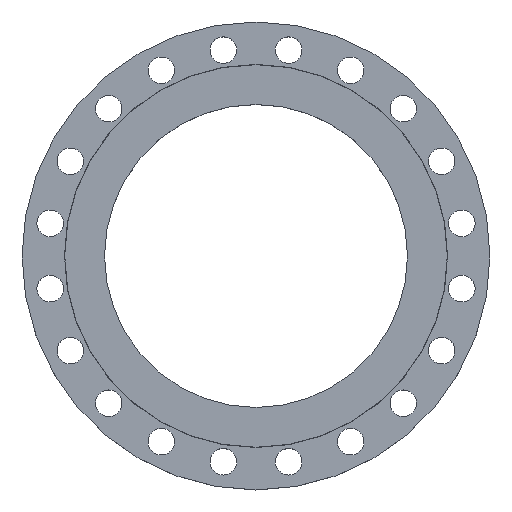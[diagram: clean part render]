
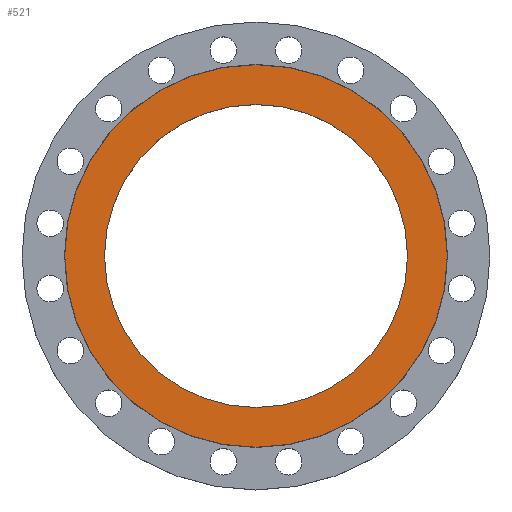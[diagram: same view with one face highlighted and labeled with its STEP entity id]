
A CAD part, top view. The second image highlights one B-rep face of the part: STEP entity #521.
In plain terms, the highlighted planar face has unit normal (0, 0, 1).
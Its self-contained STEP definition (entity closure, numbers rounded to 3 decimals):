
#7 = DIRECTION ( 'NONE',  ( -1., 0., 0. ) ) ;
#8 = DIRECTION ( 'NONE',  ( 0., 0., -1. ) ) ;
#9 = CARTESIAN_POINT ( 'NONE',  ( 0., 0., 0. ) ) ;
#28 = CIRCLE ( 'NONE', #32, 280. ) ;
#32 = AXIS2_PLACEMENT_3D ( 'NONE', #731, #730, #729 ) ;
#122 = AXIS2_PLACEMENT_3D ( 'NONE', #9, #8, #7 ) ;
#140 = AXIS2_PLACEMENT_3D ( 'NONE', #583, #582, #580 ) ;
#239 = EDGE_CURVE ( 'NONE', #847, #1842, #28, .T. ) ;
#268 = DIRECTION ( 'NONE',  ( 1., 0., 0. ) ) ;
#269 = DIRECTION ( 'NONE',  ( 0., 0., 1. ) ) ;
#272 = CARTESIAN_POINT ( 'NONE',  ( 0., 0., 0. ) ) ;
#305 = DIRECTION ( 'NONE',  ( 1., 0., 0. ) ) ;
#306 = DIRECTION ( 'NONE',  ( 0., 0., 1. ) ) ;
#307 = CARTESIAN_POINT ( 'NONE',  ( 0., 0., 0. ) ) ;
#367 = CARTESIAN_POINT ( 'NONE',  ( 280., 0., 0. ) ) ;
#521 = ADVANCED_FACE ( 'NONE', ( #586, #585 ), #584, .T. ) ;
#580 = DIRECTION ( 'NONE',  ( 1., 0., 0. ) ) ;
#582 = DIRECTION ( 'NONE',  ( 0., 0., 1. ) ) ;
#583 = CARTESIAN_POINT ( 'NONE',  ( 0., 0., 0. ) ) ;
#584 = PLANE ( 'NONE',  #140 ) ;
#585 = FACE_OUTER_BOUND ( 'NONE', #1067, .T. ) ;
#586 = FACE_BOUND ( 'NONE', #1403, .T. ) ;
#729 = DIRECTION ( 'NONE',  ( -1., 0., 0. ) ) ;
#730 = DIRECTION ( 'NONE',  ( 0., 0., -1. ) ) ;
#731 = CARTESIAN_POINT ( 'NONE',  ( 0., 0., 0. ) ) ;
#785 = CARTESIAN_POINT ( 'NONE',  ( 221.752, 0., 0. ) ) ;
#847 = VERTEX_POINT ( 'NONE', #367 ) ;
#906 = EDGE_CURVE ( 'NONE', #1379, #1590, #1340, .T. ) ;
#955 = EDGE_CURVE ( 'NONE', #1590, #1379, #1370, .T. ) ;
#1032 = ORIENTED_EDGE ( 'NONE', *, *, #239, .F. ) ;
#1033 = ORIENTED_EDGE ( 'NONE', *, *, #1427, .F. ) ;
#1035 = ORIENTED_EDGE ( 'NONE', *, *, #955, .F. ) ;
#1037 = ORIENTED_EDGE ( 'NONE', *, *, #906, .F. ) ;
#1067 = EDGE_LOOP ( 'NONE', ( #1033, #1032 ) ) ;
#1340 = CIRCLE ( 'NONE', #1343, 221.752 ) ;
#1343 = AXIS2_PLACEMENT_3D ( 'NONE', #307, #306, #305 ) ;
#1370 = CIRCLE ( 'NONE', #1703, 221.752 ) ;
#1379 = VERTEX_POINT ( 'NONE', #785 ) ;
#1403 = EDGE_LOOP ( 'NONE', ( #1037, #1035 ) ) ;
#1427 = EDGE_CURVE ( 'NONE', #1842, #847, #1508, .T. ) ;
#1508 = CIRCLE ( 'NONE', #122, 280. ) ;
#1590 = VERTEX_POINT ( 'NONE', #1870 ) ;
#1703 = AXIS2_PLACEMENT_3D ( 'NONE', #272, #269, #268 ) ;
#1760 = CARTESIAN_POINT ( 'NONE',  ( -280., 0., 0. ) ) ;
#1842 = VERTEX_POINT ( 'NONE', #1760 ) ;
#1870 = CARTESIAN_POINT ( 'NONE',  ( -221.752, 0., 0. ) ) ;
